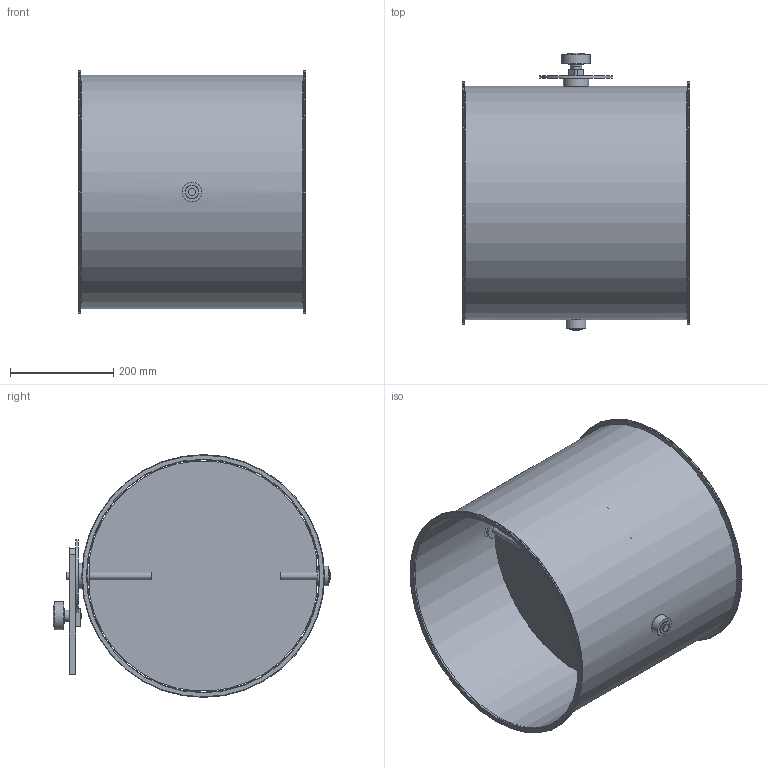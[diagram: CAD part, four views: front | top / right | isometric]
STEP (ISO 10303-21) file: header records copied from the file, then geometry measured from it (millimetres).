
FILE_DESCRIPTION(/* description */ (''),/* implementation_level */ '2;1');
FILE_NAME(/* name */ 'METU_Drosselklappe_Flansch_verzinkt_EA109-80B__450_L440_handbetaetigt.stp',/* time_stamp */ '2022-04-22T14:06:51+02:00',/* author */ (''),/* organization */ (''),/* preprocessor_version */ 'ST-DEVELOPER v11',/* originating_system */ 'SIEMENS UGS NX 6.0',/* authorisation */ '');
FILE_SCHEMA (('CONFIG_CONTROL_DESIGN'));
Length unit declared in the file: millimetre
Products named in the file (1): d.ga332Aq8vy
Bounding box: 440 x 537.34 x 470 mm (x, y, z)
Volume: 1212911.8 mm3; surface area: 1707088.7 mm2
Topology: 12 solids, 12 shells, 87 faces, 177 edges, 120 vertices
Faces by surface type: plane 41, cylinder 36, torus 6, cone 2, sphere 2
Full cylindrical faces by diameter (mm): 6 x6, 8.5 x1, 10 x1, 11 x1, 15 x5, 22 x1, 25 x3, 25.85 x2, 26 x2, 38 x3, 48 x1, 49 x1, 55 x1, 140 x1, 450 x1, 452 x1, 470 x2
Entity records: 2166 total; most frequent: CARTESIAN_POINT 382, DIRECTION 368, ORIENTED_EDGE 242, EDGE_LOOP 168, AXIS2_PLACEMENT_3D 163, FACE_BOUND 146, EDGE_CURVE 121, VERTEX_POINT 105
